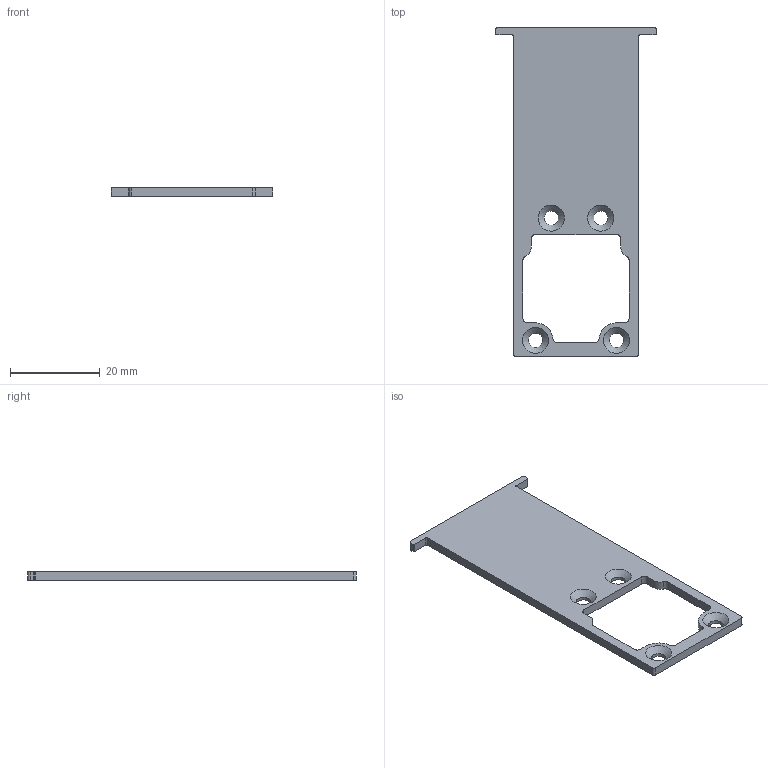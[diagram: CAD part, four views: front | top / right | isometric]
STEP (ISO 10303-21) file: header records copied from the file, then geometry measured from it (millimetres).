
FILE_DESCRIPTION(/* description */ ('Unknown'),/* implementation_level */ '2;1');
FILE_NAME(/* name */ '98553',/* time_stamp */ '2023-02-07T04:40:26-05:00',/* author */ ('Unknown'),/* organization */ ('Unknown'),/* preprocessor_version */ 'ST-DEVELOPER v18.1',/* originating_system */ 'Solid Edge',/* authorisation */ 'Unknown');
FILE_SCHEMA (('AUTOMOTIVE_DESIGN {1 0 10303 214 3 1 1}'));
Length unit declared in the file: millimetre
Products named in the file (1): LED-TAP150
Bounding box: 36 x 73 x 2 mm (x, y, z)
Volume: 3011.6 mm3; surface area: 3721.3 mm2
Topology: 1 solids, 1 shells, 46 faces, 132 edges, 88 vertices
Faces by surface type: cylinder 24, plane 18, cone 4
Full cylindrical faces by diameter (mm): 3.2 x4
Entity records: 1502 total; most frequent: DIRECTION 266, CARTESIAN_POINT 251, ORIENTED_EDGE 240, EDGE_CURVE 120, AXIS2_PLACEMENT_3D 99, VERTEX_POINT 84, LINE 68, VECTOR 68
